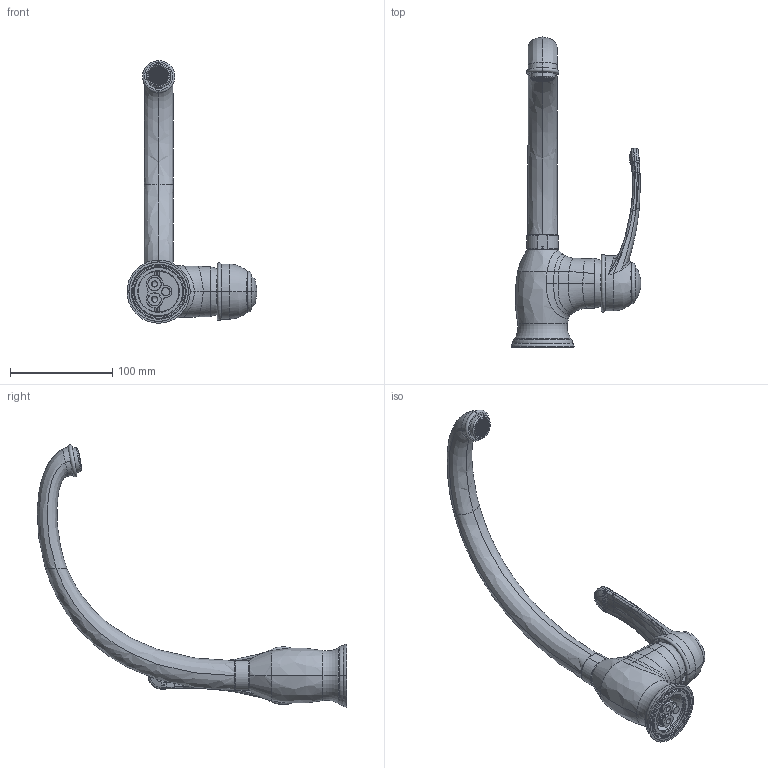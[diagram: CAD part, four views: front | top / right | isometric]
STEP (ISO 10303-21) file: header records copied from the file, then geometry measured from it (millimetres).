
FILE_DESCRIPTION((''),'2;1');
FILE_NAME('29165_SW0001','2026-05-15T15:33:03',('carloff'),(''),'CREO PARAMETRIC BY PTC INC, 2022014','CREO PARAMETRIC BY PTC INC, 2022014','');
FILE_SCHEMA(('CONFIG_CONTROL_DESIGN'));
Products named in the file (1): 29165_SW0001
Bounding box: 127.01 x 302.86 x 256.66 mm (x, y, z)
Volume: 245398.4 mm3; surface area: 181482.8 mm2
Topology: 3 solids, 4 shells, 4791 faces, 14942 edges, 8383 vertices
Faces by surface type: plane 2789, cylinder 920, bspline 513, torus 347, cone 170, sphere 52
Entity records: 196899 total; most frequent: CARTESIAN_POINT 66727, ORIENTED_EDGE 29856, DIRECTION 25085, EDGE_CURVE 14928, VECTOR 10153, LINE 10153, VERTEX_POINT 8384, AXIS2_PLACEMENT_3D 7466
